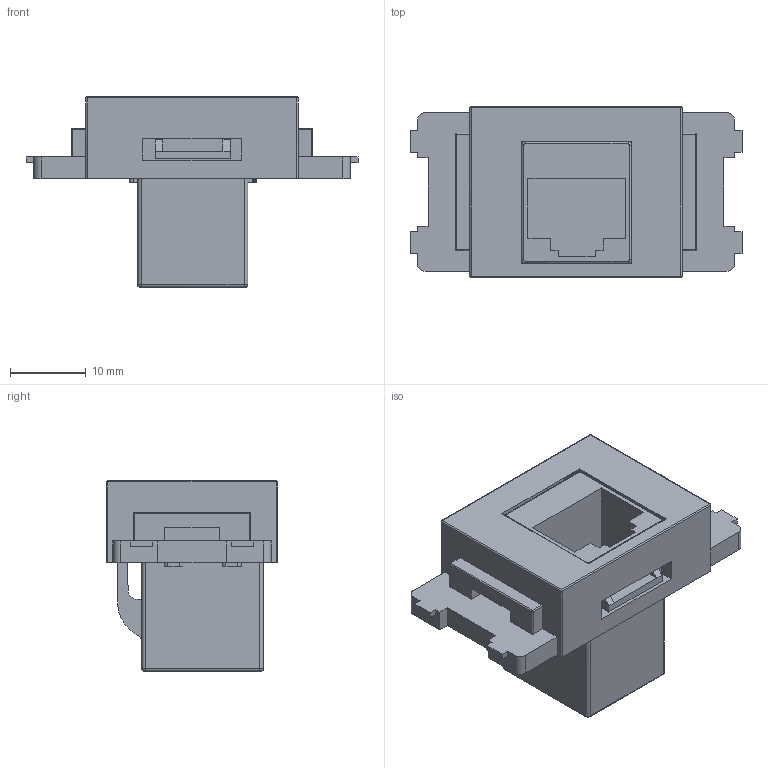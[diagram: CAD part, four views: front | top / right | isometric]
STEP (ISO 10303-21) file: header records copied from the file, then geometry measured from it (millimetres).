
FILE_DESCRIPTION(('FreeCAD Model'),'2;1');
FILE_NAME('Open CASCADE Shape Model','2026-05-12T10:15:34',(''),(''), 'Open CASCADE STEP processor 7.8','FreeCAD','Unknown');
FILE_SCHEMA(('AUTOMOTIVE_DESIGN { 1 0 10303 214 1 1 1 1 }'));
Length unit declared in the file: millimetre
Products named in the file (3): CC_C6_WH_KH; SY-NWT-KH-xx; 3013AJIC6WH
Assembly tree (2 placements, depth 2):
  CC_C6_WH_KH
    SY-NWT-KH-xx
    3013AJIC6WH
Bounding box: 43.95 x 22.65 x 25.2 mm (x, y, z)
Volume: 6931.8 mm3; surface area: 7303.8 mm2
Topology: 2 solids, 2 shells, 292 faces, 787 edges, 502 vertices
Faces by surface type: bspline 292
Entity records: 12476 total; most frequent: CARTESIAN_POINT 7611, ORIENTED_EDGE 1574, EDGE_CURVE 787, B_SPLINE_CURVE_WITH_KNOTS 787, VERTEX_POINT 502, FACE_BOUND 305, EDGE_LOOP 305, ADVANCED_FACE 292
